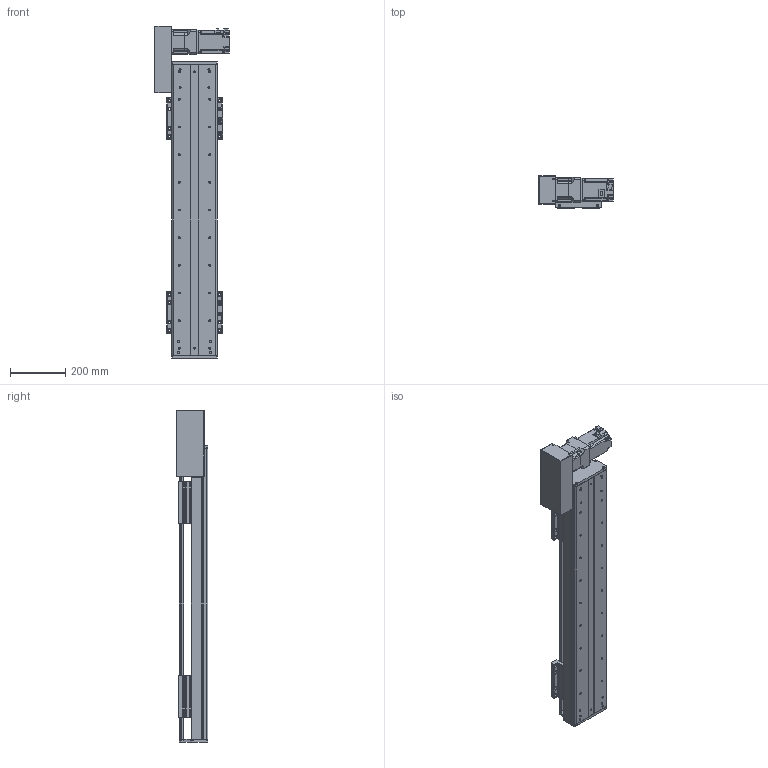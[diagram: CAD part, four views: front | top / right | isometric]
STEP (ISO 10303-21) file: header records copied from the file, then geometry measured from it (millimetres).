
FILE_DESCRIPTION(/* description */ (''),/* implementation_level */ '2;1');
FILE_NAME(/* name */ 'C:\Users\PC\Desktop\3D도면\STEP\DSB165-L7G-W0700-R.stp',/* time_stamp */ '2018-06-25T14:30:41+09:00',/* author */ ('PC'),/* organization */ (''),/* preprocessor_version */ 'ST-DEVELOPER v16.5',/* originating_system */ 'Autodesk Inventor 2017',/* authorisation */ '');
FILE_SCHEMA (('AUTOMOTIVE_DESIGN { 1 0 10303 214 3 1 1 }'));
Length unit declared in the file: millimetre
Products named in the file (12): DSB165-L; DSR165-BASE_S; hg-kr73_; ab0901-p0401300102; 11-DBS165 BELT COVER; DBS165-COVER; DBS165-COVER_1; DBS165-UP COVER; DBS165-TABLE(MSA20S); DSR126-SENSOR DOG; pm-y65_step; SENSOR BRACKET(EE-SX674A)
Assembly tree (16 placements, depth 2):
  DSB165-L
    DSR165-BASE_S
    hg-kr73_
    ab0901-p0401300102
    11-DBS165 BELT COVER
    DBS165-COVER
    DBS165-COVER_1
    DBS165-UP COVER
    DBS165-TABLE(MSA20S)  x2
    DSR126-SENSOR DOG
    pm-y65_step  x3
    SENSOR BRACKET(EE-SX674A)  x3
Bounding box: 270 x 115 x 1200 mm (x, y, z)
Volume: 7495708.4 mm3; surface area: 1728740.7 mm2
Topology: 17 solids, 22 shells, 1667 faces, 4475 edges, 2952 vertices
Faces by surface type: plane 926, cylinder 619, cone 110, sphere 8, torus 4
Full cylindrical faces by diameter (mm): 2.459 x20, 3.5 x6, 4.134 x42, 4.5 x18, 5 x27, 5.5 x36, 5.9 x4, 6 x8, 6.6 x14, 6.647 x38, 6.8 x1, 7 x4, 7.6 x4, 8 x1, 8.4 x1, 8.5 x24, 8.7 x1, 9.5 x32, 11 x6, 14 x16, 19 x1, 22 x1, 24 x1, 25 x1, 28 x1, 67 x1, 70 x2, 80 x1
Entity records: 35469 total; most frequent: DIRECTION 6268, CARTESIAN_POINT 6079, ORIENTED_EDGE 5534, EDGE_CURVE 2772, AXIS2_PLACEMENT_3D 2304, VERTEX_POINT 1977, EDGE_LOOP 1731, LINE 1660
